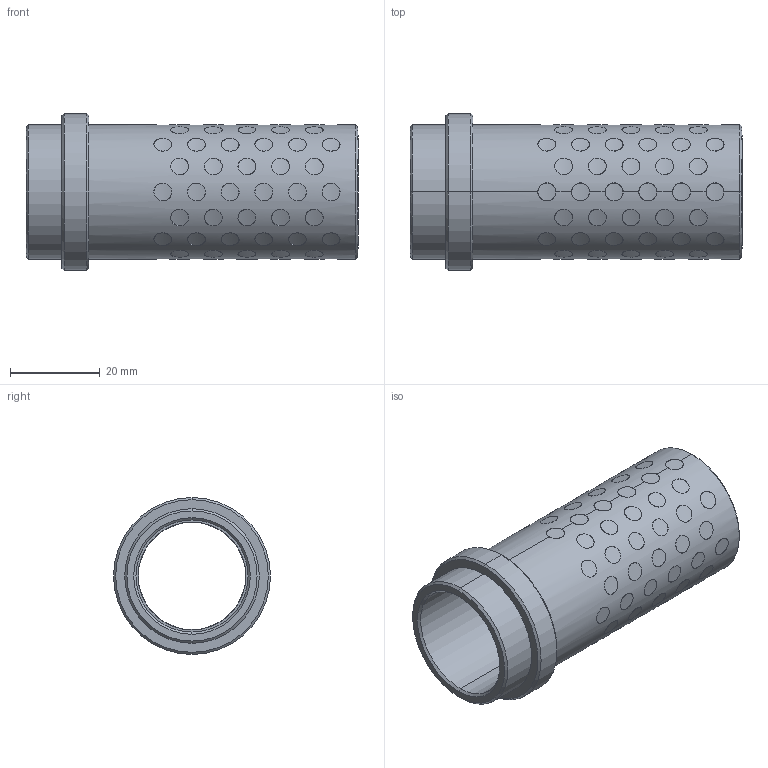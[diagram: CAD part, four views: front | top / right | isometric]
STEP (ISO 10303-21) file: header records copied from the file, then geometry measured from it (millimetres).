
FILE_DESCRIPTION((''),'2;1');
FILE_NAME('G31224066','2017-12-30T',('MANU'),(''),'PRO/ENGINEER BY PARAMETRIC TECHNOLOGY CORPORATION, 2012130','PRO/ENGINEER BY PARAMETRIC TECHNOLOGY CORPORATION, 2012130','');
FILE_SCHEMA(('CONFIG_CONTROL_DESIGN'));
Length unit declared in the file: millimetre
Products named in the file (1): G31224066
Bounding box: 74 x 35 x 35 mm (x, y, z)
Volume: 19208.7 mm3; surface area: 20158.8 mm2
Topology: 89 solids, 89 shells, 555 faces, 1182 edges, 784 vertices
Faces by surface type: cylinder 538, cone 12, plane 5
Entity records: 26082 total; most frequent: CARTESIAN_POINT 15257, ORIENTED_EDGE 2364, DIRECTION 1572, EDGE_CURVE 1182, VERTEX_POINT 784, B_SPLINE_CURVE_WITH_KNOTS 752, EDGE_LOOP 712, AXIS2_PLACEMENT_3D 587
